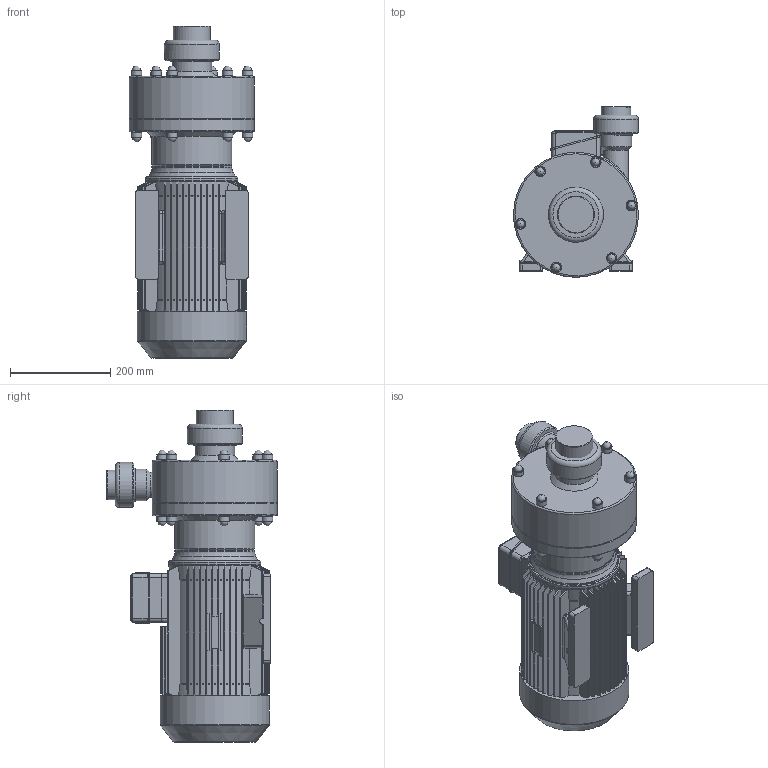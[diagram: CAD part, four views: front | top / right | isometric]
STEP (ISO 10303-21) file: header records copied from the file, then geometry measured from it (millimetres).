
FILE_DESCRIPTION(/* description */ (''),/* implementation_level */ '2;1');
FILE_NAME(/* name */ 'C:\Users\tarpo\OneDrive\Masaüstü\Pompalar Resimler ve Cad Dosyalar\372 A\PP.372 A.stp',/* time_stamp */ '2024-07-12T11:48:42+03:00',/* author */ ('tarpo'),/* organization */ (''),/* preprocessor_version */ 'ST-DEVELOPER v18',/* originating_system */ 'Autodesk Inventor 2020',/* authorisation */ '');
FILE_SCHEMA (('CONFIG_CONTROL_DESIGN'));
Length unit declared in the file: millimetre
Products named in the file (1): PP.372 A_Shrinkwrap_1
Bounding box: 250.26 x 341.18 x 664 mm (x, y, z)
Volume: 21184085.6 mm3; surface area: 1202424.4 mm2
Topology: 19 solids, 19 shells, 794 faces, 2152 edges, 1409 vertices
Faces by surface type: plane 273, cylinder 198, cone 150, torus 98, bspline 62, sphere 13
Full cylindrical faces by diameter (mm): 21.3 x12, 23 x1, 28 x1, 50 x1, 59.5 x1, 62.7 x1, 66 x1, 70 x1, 74 x1, 79 x1, 85.7 x1, 90 x2, 110 x2, 160 x2, 179.4 x1, 183.801 x1, 184 x1, 218.5 x1, 250 x2
Entity records: 33576 total; most frequent: CARTESIAN_POINT 13618, ORIENTED_EDGE 4272, DIRECTION 3782, EDGE_CURVE 2136, AXIS2_PLACEMENT_3D 1512, VERTEX_POINT 1409, EDGE_LOOP 827, STYLED_ITEM 813
